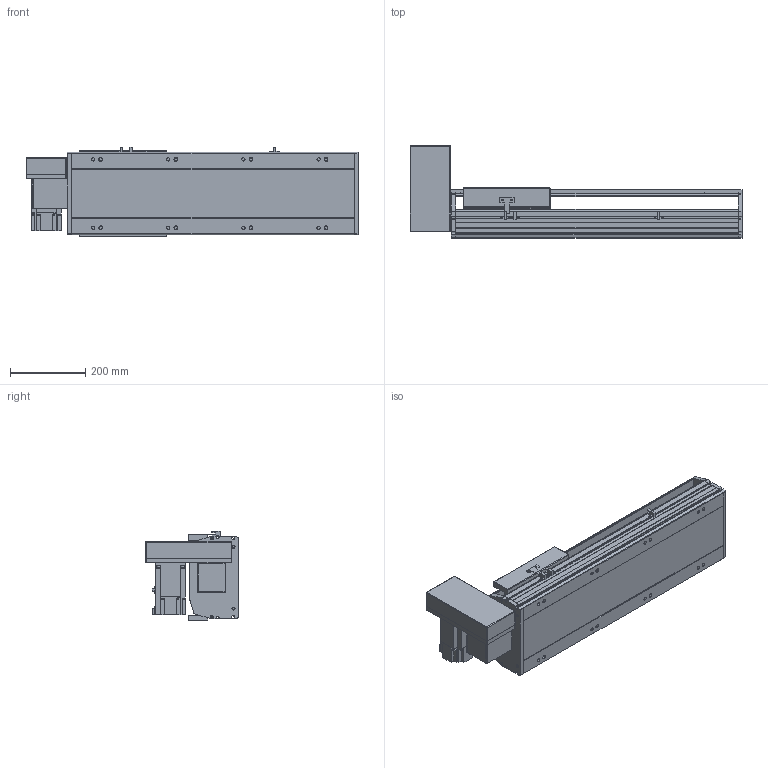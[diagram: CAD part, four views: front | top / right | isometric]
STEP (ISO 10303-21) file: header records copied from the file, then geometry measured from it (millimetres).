
FILE_DESCRIPTION(/* description */ ('STEP AP214'),/* implementation_level */ '2;1');
FILE_NAME(/* name */ 'PBS220-P40-S400-RU-T75-C1-N(0)',/* time_stamp */ '2022-06-13T02:50:05+02:00',/* author */ ('License CC BY-ND 4.0'),/* organization */ ('CADENAS'),/* preprocessor_version */ 'ST-DEVELOPER v18.102',/* originating_system */ 'PARTsolutions',/* authorisation */ ' ');
FILE_SCHEMA (('AUTOMOTIVE_DESIGN {1 0 10303 214 3 1 1}'));
Length unit declared in the file: millimetre
Products named in the file (7): PBS220-P40-S400-RU-T75-C1-N(0); PBS220_sensor; PBS220_plant; PBS220_sliser; T75-p1; PBS220T-RU_motors; PBS220-S400()_body
Assembly tree (8 placements, depth 2):
  PBS220-P40-S400-RU-T75-C1-N(0)
    PBS220_sensor  x3
    PBS220_plant
    PBS220_sliser
    T75-p1
    PBS220T-RU_motors
    PBS220-S400()_body
Bounding box: 884 x 247 x 238.5 mm (x, y, z)
Volume: 13382202.8 mm3; surface area: 1410994.2 mm2
Topology: 8 solids, 8 shells, 866 faces, 2284 edges, 1486 vertices
Faces by surface type: plane 582, cylinder 252, cone 32
Full cylindrical faces by diameter (mm): 2.013 x4, 4.5 x14, 4.917 x4, 6 x7, 6.647 x8, 8 x10, 8.376 x8, 8.5 x8, 10 x6, 14 x8, 38 x2, 40 x1, 70 x1
Entity records: 24381 total; most frequent: DIRECTION 4239, CARTESIAN_POINT 4228, ORIENTED_EDGE 3962, EDGE_CURVE 1981, AXIS2_PLACEMENT_3D 1451, VERTEX_POINT 1352, LINE 1337, VECTOR 1337
